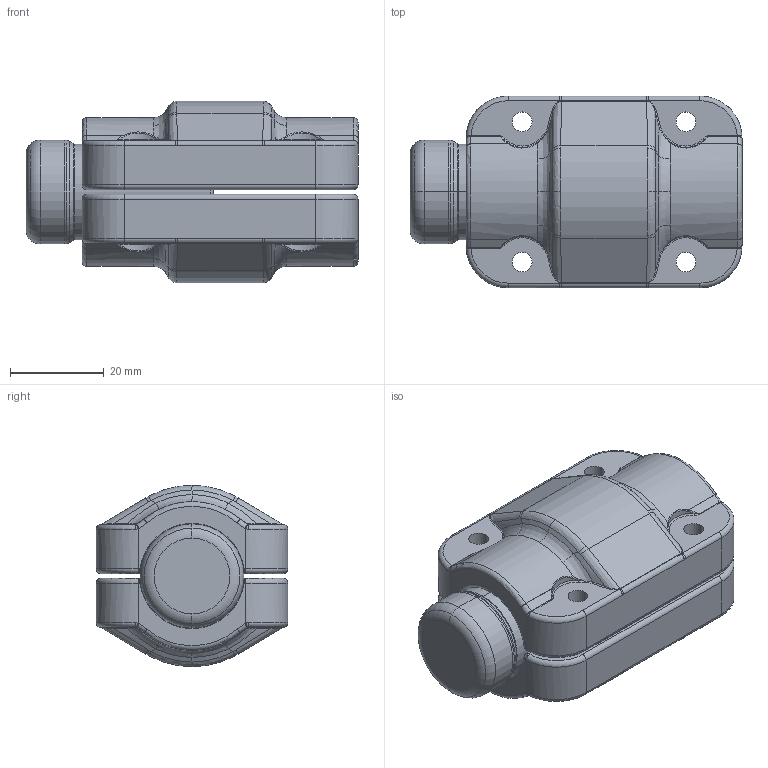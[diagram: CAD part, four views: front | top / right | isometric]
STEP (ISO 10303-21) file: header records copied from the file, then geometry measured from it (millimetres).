
FILE_DESCRIPTION((''),'2;1');
FILE_NAME('2015100699_ASM_9_ASM','2017-05-15T',('Administrator'),(''),'PRO/ENGINEER BY PARAMETRIC TECHNOLOGY CORPORATION, 2009360','PRO/ENGINEER BY PARAMETRIC TECHNOLOGY CORPORATION, 2009360','');
FILE_SCHEMA(('AUTOMOTIVE_DESIGN_CC2 { 1 2 10303 214 -1 1 5 2 }'));
Length unit declared in the file: millimetre
Products named in the file (5): 2015100600_6; 201510020000_38_1; 201510020001_10_1; 2015100200_ASM_1_ASM; 2015100699_ASM_9_ASM
Assembly tree (4 placements, depth 3):
  2015100699_ASM_9_ASM
    2015100600_6
    2015100200_ASM_1_ASM
      201510020000_38_1
      201510020001_10_1
Bounding box: 71 x 41 x 38.8 mm (x, y, z)
Volume: 48570.4 mm3; surface area: 22629.4 mm2
Topology: 3 solids, 9 shells, 389 faces, 931 edges, 554 vertices
Faces by surface type: bspline 138, cylinder 116, torus 72, plane 41, cone 14, sphere 8
Entity records: 19256 total; most frequent: CARTESIAN_POINT 8486, ORIENTED_EDGE 1848, DIRECTION 1416, EDGE_CURVE 924, AXIS2_PLACEMENT_3D 615, VERTEX_POINT 554, PRESENTATION_STYLE_ASSIGNMENT 419, STYLED_ITEM 419
